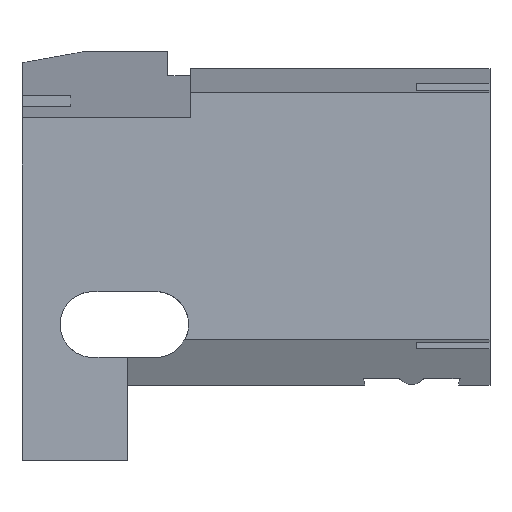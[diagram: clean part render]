
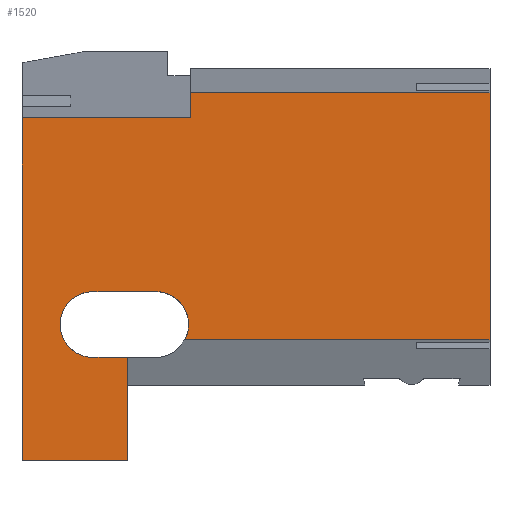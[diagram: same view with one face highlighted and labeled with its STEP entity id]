
A CAD part, left-side view. The second image highlights one B-rep face of the part: STEP entity #1520.
In plain terms, the highlighted planar face has unit normal (-1, 0, 0).
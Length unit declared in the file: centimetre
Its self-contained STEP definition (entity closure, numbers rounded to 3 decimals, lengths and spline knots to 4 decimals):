
#2 = VERTEX_POINT ( 'NONE', #719 ) ;
#5 = CARTESIAN_POINT ( 'NONE',  ( 0., 775.0588, 257.8106 ) ) ;
#74 = LINE ( 'NONE', #1423, #1243 ) ;
#76 = VECTOR ( 'NONE', #842, 100. ) ;
#93 = ORIENTED_EDGE ( 'NONE', *, *, #1483, .T. ) ;
#112 = EDGE_CURVE ( 'NONE', #927, #2, #885, .T. ) ;
#144 = VERTEX_POINT ( 'NONE', #1601 ) ;
#146 = VECTOR ( 'NONE', #1363, 100. ) ;
#175 = CARTESIAN_POINT ( 'NONE',  ( 0., 639.5957, 731.843 ) ) ;
#186 = VERTEX_POINT ( 'NONE', #225 ) ;
#206 = VERTEX_POINT ( 'NONE', #1385 ) ;
#211 = DIRECTION ( 'NONE',  ( 0., 1., 0. ) ) ;
#214 = CARTESIAN_POINT ( 'NONE',  ( 0., 714.2189, 360.7459 ) ) ;
#219 = VERTEX_POINT ( 'NONE', #1681 ) ;
#225 = CARTESIAN_POINT ( 'NONE',  ( 0., 848.4099, 360.7459 ) ) ;
#241 = ORIENTED_EDGE ( 'NONE', *, *, #670, .T. ) ;
#266 = CARTESIAN_POINT ( 'NONE',  ( 0., 1000., 1000. ) ) ;
#271 = ORIENTED_EDGE ( 'NONE', *, *, #1784, .T. ) ;
#319 = LINE ( 'NONE', #880, #985 ) ;
#329 = DIRECTION ( 'NONE',  ( 0., -1., 0. ) ) ;
#330 = VERTEX_POINT ( 'NONE', #1308 ) ;
#368 = LINE ( 'NONE', #1054, #146 ) ;
#382 = ORIENTED_EDGE ( 'NONE', *, *, #481, .T. ) ;
#407 = FACE_OUTER_BOUND ( 'NONE', #1128, .T. ) ;
#415 = EDGE_CURVE ( 'NONE', #219, #1019, #1460, .T. ) ;
#443 = VERTEX_POINT ( 'NONE', #1604 ) ;
#459 = CARTESIAN_POINT ( 'NONE',  ( 0., 0., 257.8106 ) ) ;
#481 = EDGE_CURVE ( 'NONE', #2, #443, #368, .T. ) ;
#489 = DIRECTION ( 'NONE',  ( 0., 0., -1. ) ) ;
#525 = CIRCLE ( 'NONE', #1690, 70.3125 ) ;
#541 = DIRECTION ( 'NONE',  ( 1., 0., 0. ) ) ;
#587 = DIRECTION ( 'NONE',  ( 1., 0., 0. ) ) ;
#637 = DIRECTION ( 'NONE',  ( 0., -1., 0. ) ) ;
#665 = ORIENTED_EDGE ( 'NONE', *, *, #1724, .T. ) ;
#670 = EDGE_CURVE ( 'NONE', #1211, #186, #1535, .T. ) ;
#719 = CARTESIAN_POINT ( 'NONE',  ( 0., 1000., 731.843 ) ) ;
#742 = DIRECTION ( 'NONE',  ( 0., 0., 1. ) ) ;
#744 = VERTEX_POINT ( 'NONE', #1321 ) ;
#751 = AXIS2_PLACEMENT_3D ( 'NONE', #266, #541, #1108 ) ;
#801 = CARTESIAN_POINT ( 'NONE',  ( 0., 775.0588, 257.8106 ) ) ;
#821 = EDGE_CURVE ( 'NONE', #330, #1019, #1759, .T. ) ;
#824 = ORIENTED_EDGE ( 'NONE', *, *, #1434, .F. ) ;
#842 = DIRECTION ( 'NONE',  ( 0., -1., 0. ) ) ;
#864 = VECTOR ( 'NONE', #1511, 100. ) ;
#875 = ORIENTED_EDGE ( 'NONE', *, *, #112, .T. ) ;
#880 = CARTESIAN_POINT ( 'NONE',  ( 0., 688.6916, 785.17 ) ) ;
#885 = LINE ( 'NONE', #1442, #1543 ) ;
#888 = CARTESIAN_POINT ( 'NONE',  ( 0., 0., 1000. ) ) ;
#927 = VERTEX_POINT ( 'NONE', #1122 ) ;
#985 = VECTOR ( 'NONE', #329, 100. ) ;
#986 = CARTESIAN_POINT ( 'NONE',  ( 0., 1000., 0. ) ) ;
#1019 = VERTEX_POINT ( 'NONE', #459 ) ;
#1035 = EDGE_CURVE ( 'NONE', #927, #144, #1039, .T. ) ;
#1039 = LINE ( 'NONE', #175, #1040 ) ;
#1040 = VECTOR ( 'NONE', #742, 100. ) ;
#1054 = CARTESIAN_POINT ( 'NONE',  ( 0., 1000., 1000. ) ) ;
#1082 = LINE ( 'NONE', #801, #1219 ) ;
#1101 = DIRECTION ( 'NONE',  ( 0., 1., 0. ) ) ;
#1108 = DIRECTION ( 'NONE',  ( 0., 0., -1. ) ) ;
#1112 = LINE ( 'NONE', #1391, #1799 ) ;
#1122 = CARTESIAN_POINT ( 'NONE',  ( 0., 639.5957, 731.843 ) ) ;
#1123 = EDGE_CURVE ( 'NONE', #144, #219, #319, .T. ) ;
#1128 = EDGE_LOOP ( 'NONE', ( #271, #93, #1249, #1789, #1613, #1352, #875, #382, #1717, #824, #665, #241 ) ) ;
#1131 = VECTOR ( 'NONE', #1443, 100. ) ;
#1136 = DIRECTION ( 'NONE',  ( 0., 0., -1. ) ) ;
#1211 = VERTEX_POINT ( 'NONE', #1753 ) ;
#1217 = VERTEX_POINT ( 'NONE', #214 ) ;
#1219 = VECTOR ( 'NONE', #1358, 100. ) ;
#1243 = VECTOR ( 'NONE', #637, 100. ) ;
#1249 = ORIENTED_EDGE ( 'NONE', *, *, #821, .T. ) ;
#1308 = CARTESIAN_POINT ( 'NONE',  ( 0., 651.9324, 257.8106 ) ) ;
#1321 = CARTESIAN_POINT ( 'NONE',  ( 0., 775.0588, 0. ) ) ;
#1352 = ORIENTED_EDGE ( 'NONE', *, *, #1035, .F. ) ;
#1358 = DIRECTION ( 'NONE',  ( 0., 0., -1. ) ) ;
#1363 = DIRECTION ( 'NONE',  ( 0., 0., -1. ) ) ;
#1385 = CARTESIAN_POINT ( 'NONE',  ( 0., 775.0588, 220.1208 ) ) ;
#1391 = CARTESIAN_POINT ( 'NONE',  ( 0., 714.2189, 220.1208 ) ) ;
#1399 = CARTESIAN_POINT ( 'NONE',  ( 0., 714.2189, 290.4334 ) ) ;
#1423 = CARTESIAN_POINT ( 'NONE',  ( 0., 848.4099, 360.7459 ) ) ;
#1434 = EDGE_CURVE ( 'NONE', #206, #744, #1082, .T. ) ;
#1442 = CARTESIAN_POINT ( 'NONE',  ( 0., 639.5957, 731.843 ) ) ;
#1443 = DIRECTION ( 'NONE',  ( 0., 0., -1. ) ) ;
#1447 = CARTESIAN_POINT ( 'NONE',  ( 0., 848.4099, 290.4334 ) ) ;
#1460 = LINE ( 'NONE', #888, #1131 ) ;
#1483 = EDGE_CURVE ( 'NONE', #1217, #330, #525, .T. ) ;
#1511 = DIRECTION ( 'NONE',  ( 0., -1., 0. ) ) ;
#1520 = ADVANCED_FACE ( 'NONE', ( #407 ), #1792, .F. ) ;
#1535 = CIRCLE ( 'NONE', #1654, 70.3125 ) ;
#1543 = VECTOR ( 'NONE', #211, 100. ) ;
#1601 = CARTESIAN_POINT ( 'NONE',  ( 0., 639.5957, 785.17 ) ) ;
#1604 = CARTESIAN_POINT ( 'NONE',  ( 0., 1000., 0. ) ) ;
#1613 = ORIENTED_EDGE ( 'NONE', *, *, #1123, .F. ) ;
#1654 = AXIS2_PLACEMENT_3D ( 'NONE', #1447, #1730, #489 ) ;
#1678 = LINE ( 'NONE', #986, #76 ) ;
#1681 = CARTESIAN_POINT ( 'NONE',  ( 0., 0., 785.17 ) ) ;
#1690 = AXIS2_PLACEMENT_3D ( 'NONE', #1399, #587, #1136 ) ;
#1717 = ORIENTED_EDGE ( 'NONE', *, *, #1725, .T. ) ;
#1724 = EDGE_CURVE ( 'NONE', #206, #1211, #1112, .T. ) ;
#1725 = EDGE_CURVE ( 'NONE', #443, #744, #1678, .T. ) ;
#1730 = DIRECTION ( 'NONE',  ( 1., 0., 0. ) ) ;
#1753 = CARTESIAN_POINT ( 'NONE',  ( 0., 848.4099, 220.1208 ) ) ;
#1759 = LINE ( 'NONE', #5, #864 ) ;
#1784 = EDGE_CURVE ( 'NONE', #186, #1217, #74, .T. ) ;
#1789 = ORIENTED_EDGE ( 'NONE', *, *, #415, .F. ) ;
#1792 = PLANE ( 'NONE',  #751 ) ;
#1799 = VECTOR ( 'NONE', #1101, 100. ) ;
